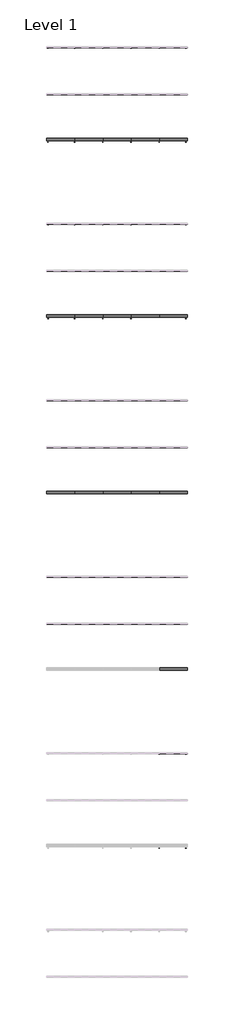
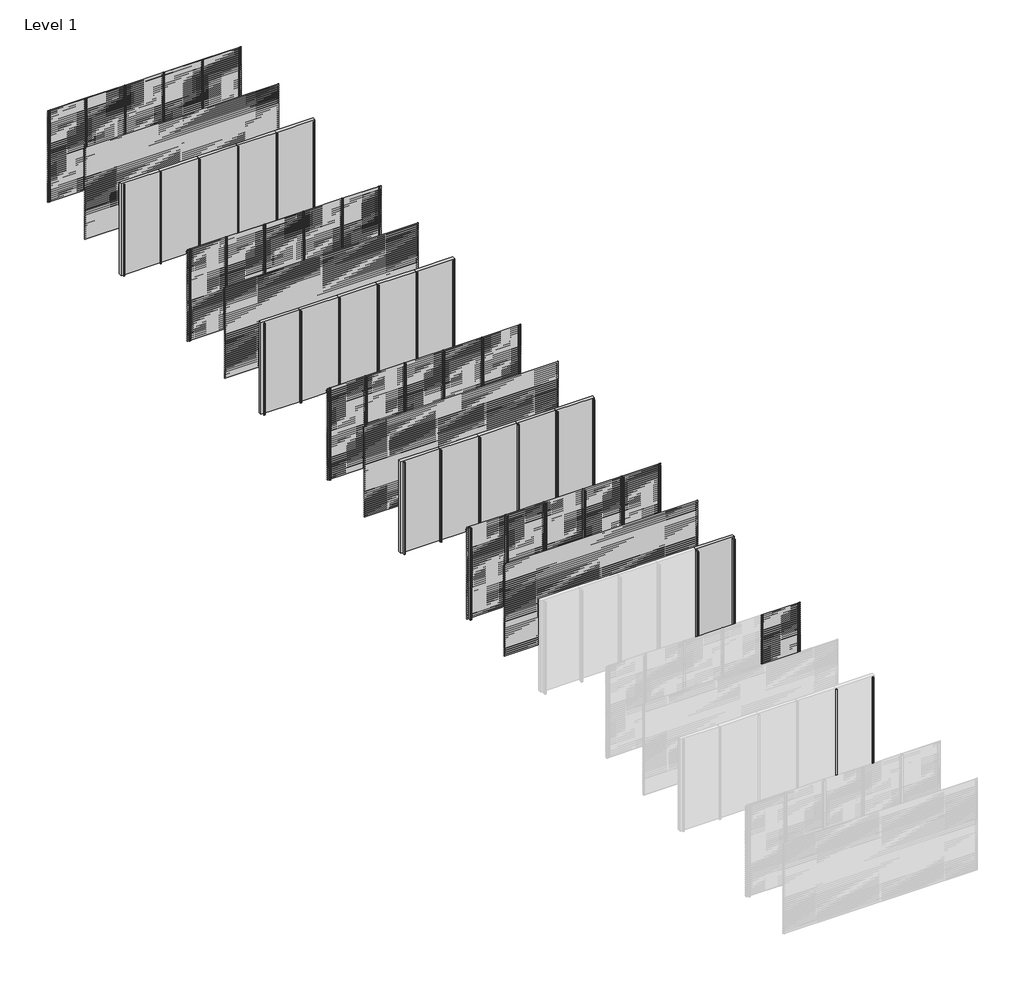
# One storey, part 13 of 540: 48 members, 41 plates.
"""IFC4 building model written with IfcOpenShell, lengths in millimetres."""

from ifc_helpers import new_model, si_unit, origin, place, context, project, spatial, faceted_brep, transform, mapped, element, save
from components import rectangular_mullion_42be434b, rectangular_mullion_e1f482b2, rectangular_mullion_21e3ddae, rectangular_mullion_fb497acc, rectangular_mullion_3facce28, rectangular_mullion_ffdfeaf4, rectangular_mullion_e0a14876, rectangular_mullion_146f339b, rectangular_mullion_aa1047c5, rectangular_mullion_c2c7736a, rectangular_mullion_35b0a916, rectangular_mullion_bd250e2e, rectangular_mullion_7b49c8f1, rectangular_mullion_0fd695e7, empty_system_panel_empty_aabbdda4

model = new_model("IFC4")

# Units and contexts
model_context = context("Model", 3, world=origin())
ifc_project = project(units=[si_unit("LENGTHUNIT", "METRE", prefix="MILLI")], contexts=[model_context])

# Site, building, storey
site = spatial("IfcSite", under=ifc_project)
building = spatial("IfcBuilding", under=site)
storey = spatial("IfcBuildingStorey", under=building, Name="Level 1", Elevation=0.0)

# Members
placement = place(None, origin())
rectangular_mullion_shape = rectangular_mullion_42be434b(model_context)
element("IfcMember", 1, ObjectType="Rectangular Mullion : LD.0065_renson", at=placement, inside=storey, context=model_context, shape_type="MappedRepresentation", body=[
    mapped(rectangular_mullion_shape, transform((269866.6208097, 73983.0540136, 0.0), x_axis=(-1.0, 0.0, 0.0), y_axis=(0.0, 1.0, 0.0), z_axis=(0.0, 0.0, -1.0))),
])
element("IfcMember", 2, ObjectType="Rectangular Mullion : LD.0065_renson", at=placement, inside=storey, context=model_context, shape_type="MappedRepresentation", body=[
    mapped(rectangular_mullion_shape, transform((268666.6208099, 73983.0540136, 0.0), x_axis=(-1.0, 0.0, 0.0), y_axis=(0.0, 1.0, 0.0), z_axis=(0.0, 0.0, -1.0))),
])
element("IfcMember", 3, ObjectType="Rectangular Mullion : LD.0065_renson", at=placement, inside=storey, context=model_context, shape_type="MappedRepresentation", body=[
    mapped(rectangular_mullion_shape, transform((272266.6208095, 69983.0540136, 0.0), x_axis=(-1.0, 0.0, 0.0), y_axis=(0.0, 1.0, 0.0), z_axis=(0.0, 0.0, -1.0))),
])
element("IfcMember", 4, ObjectType="Rectangular Mullion : LD.0065_renson", at=placement, inside=storey, context=model_context, shape_type="MappedRepresentation", body=[
    mapped(rectangular_mullion_shape, transform((271066.6208096, 69983.0540136, 0.0), x_axis=(-1.0, 0.0, 0.0), y_axis=(0.0, 1.0, 0.0), z_axis=(0.0, 0.0, -1.0))),
])
element("IfcMember", 5, ObjectType="Rectangular Mullion : LD.0065_renson", at=placement, inside=storey, context=model_context, shape_type="MappedRepresentation", body=[
    mapped(rectangular_mullion_shape, transform((269866.6208097, 69983.0540136, 0.0), x_axis=(-1.0, 0.0, 0.0), y_axis=(0.0, 1.0, 0.0), z_axis=(0.0, 0.0, -1.0))),
])
element("IfcMember", 6, ObjectType="Rectangular Mullion : LD.0065_renson", at=placement, inside=storey, context=model_context, shape_type="MappedRepresentation", body=[
    mapped(rectangular_mullion_shape, transform((268666.6208099, 69983.0540136, 0.0), x_axis=(-1.0, 0.0, 0.0), y_axis=(0.0, 1.0, 0.0), z_axis=(0.0, 0.0, -1.0))),
])
element("IfcMember", 7, ObjectType="Rectangular Mullion : LD.0065_renson", at=placement, inside=storey, context=model_context, shape_type="MappedRepresentation", body=[
    mapped(rectangular_mullion_shape, transform((271066.6208096, 73983.0540136, 0.0), x_axis=(-1.0, 0.0, 0.0), y_axis=(0.0, 1.0, 0.0), z_axis=(0.0, 0.0, -1.0))),
])
element("IfcMember", 8, ObjectType="Rectangular Mullion : LD.0065_renson", at=placement, inside=storey, context=model_context, shape_type="MappedRepresentation", body=[
    mapped(rectangular_mullion_shape, transform((272266.6208095, 73983.0540136, 0.0), x_axis=(-1.0, 0.0, 0.0), y_axis=(0.0, 1.0, 0.0), z_axis=(0.0, 0.0, -1.0))),
])
rectangular_mullion_2_shape = rectangular_mullion_e1f482b2(model_context)
element("IfcMember", 9, ObjectType="Rectangular Mullion : LD.0195_renson", at=placement, inside=storey, context=model_context, shape_type="MappedRepresentation", body=[
    mapped(rectangular_mullion_2_shape, transform((269866.6208097, 66483.0540136, 0.0), x_axis=(-1.0, 0.0, 0.0), y_axis=(0.0, 1.0, 0.0), z_axis=(0.0, 0.0, -1.0))),
])
element("IfcMember", 10, ObjectType="Rectangular Mullion : LD.0195_renson", at=placement, inside=storey, context=model_context, shape_type="MappedRepresentation", body=[
    mapped(rectangular_mullion_2_shape, transform((268666.6208099, 66483.0540136, 0.0), x_axis=(-1.0, 0.0, 0.0), y_axis=(0.0, 1.0, 0.0), z_axis=(0.0, 0.0, -1.0))),
])
element("IfcMember", 11, ObjectType="Rectangular Mullion : LD.0195_renson", at=placement, inside=storey, context=model_context, shape_type="MappedRepresentation", body=[
    mapped(rectangular_mullion_2_shape, transform((272266.6208095, 62483.0540136, 0.0), x_axis=(-1.0, 0.0, 0.0), y_axis=(0.0, 1.0, 0.0), z_axis=(0.0, 0.0, -1.0))),
])
element("IfcMember", 12, ObjectType="Rectangular Mullion : LD.0195_renson", at=placement, inside=storey, context=model_context, shape_type="MappedRepresentation", body=[
    mapped(rectangular_mullion_2_shape, transform((271066.6208096, 62483.0540136, 0.0), x_axis=(-1.0, 0.0, 0.0), y_axis=(0.0, 1.0, 0.0), z_axis=(0.0, 0.0, -1.0))),
])
element("IfcMember", 13, ObjectType="Rectangular Mullion : LD.0195_renson", at=placement, inside=storey, context=model_context, shape_type="MappedRepresentation", body=[
    mapped(rectangular_mullion_2_shape, transform((269866.6208097, 62483.0540136, 0.0), x_axis=(-1.0, 0.0, 0.0), y_axis=(0.0, 1.0, 0.0), z_axis=(0.0, 0.0, -1.0))),
])
element("IfcMember", 14, ObjectType="Rectangular Mullion : LD.0195_renson", at=placement, inside=storey, context=model_context, shape_type="MappedRepresentation", body=[
    mapped(rectangular_mullion_2_shape, transform((268666.6208099, 62483.0540136, 0.0), x_axis=(-1.0, 0.0, 0.0), y_axis=(0.0, 1.0, 0.0), z_axis=(0.0, 0.0, -1.0))),
])
element("IfcMember", 15, ObjectType="Rectangular Mullion : LD.0195_renson", at=placement, inside=storey, context=model_context, shape_type="MappedRepresentation", body=[
    mapped(rectangular_mullion_2_shape, transform((271066.6208096, 66483.0540136, 0.0), x_axis=(-1.0, 0.0, 0.0), y_axis=(0.0, 1.0, 0.0), z_axis=(0.0, 0.0, -1.0))),
])
element("IfcMember", 16, ObjectType="Rectangular Mullion : LD.0195_renson", at=placement, inside=storey, context=model_context, shape_type="MappedRepresentation", body=[
    mapped(rectangular_mullion_2_shape, transform((272266.6208095, 66483.0540136, 0.0), x_axis=(-1.0, 0.0, 0.0), y_axis=(0.0, 1.0, 0.0), z_axis=(0.0, 0.0, -1.0))),
])
rectangular_mullion_3_shape = rectangular_mullion_21e3ddae(model_context)
element("IfcMember", 17, ObjectType="Rectangular Mullion : LD.0460_renson", at=placement, inside=storey, context=model_context, shape_type="MappedRepresentation", body=[
    mapped(rectangular_mullion_3_shape, transform((269866.6208097, 58983.0540136, 0.0), x_axis=(-1.0, 0.0, 0.0), y_axis=(0.0, 1.0, 0.0), z_axis=(0.0, 0.0, -1.0))),
])
element("IfcMember", 18, ObjectType="Rectangular Mullion : LD.0460_renson", at=placement, inside=storey, context=model_context, shape_type="MappedRepresentation", body=[
    mapped(rectangular_mullion_3_shape, transform((268666.6208099, 58983.0540136, 0.0), x_axis=(-1.0, 0.0, 0.0), y_axis=(0.0, 1.0, 0.0), z_axis=(0.0, 0.0, -1.0))),
])
element("IfcMember", 19, ObjectType="Rectangular Mullion : LD.0460_renson", at=placement, inside=storey, context=model_context, shape_type="MappedRepresentation", body=[
    mapped(rectangular_mullion_3_shape, transform((272266.6208095, 54983.0540136, 0.0), x_axis=(-1.0, 0.0, 0.0), y_axis=(0.0, 1.0, 0.0), z_axis=(0.0, 0.0, -1.0))),
])
element("IfcMember", 20, ObjectType="Rectangular Mullion : LD.0460_renson", at=placement, inside=storey, context=model_context, shape_type="MappedRepresentation", body=[
    mapped(rectangular_mullion_3_shape, transform((271066.6208096, 54983.0540136, 0.0), x_axis=(-1.0, 0.0, 0.0), y_axis=(0.0, 1.0, 0.0), z_axis=(0.0, 0.0, -1.0))),
])
element("IfcMember", 21, ObjectType="Rectangular Mullion : LD.0460_renson", at=placement, inside=storey, context=model_context, shape_type="MappedRepresentation", body=[
    mapped(rectangular_mullion_3_shape, transform((269866.6208097, 54983.0540136, 0.0), x_axis=(-1.0, 0.0, 0.0), y_axis=(0.0, 1.0, 0.0), z_axis=(0.0, 0.0, -1.0))),
])
element("IfcMember", 22, ObjectType="Rectangular Mullion : LD.0460_renson", at=placement, inside=storey, context=model_context, shape_type="MappedRepresentation", body=[
    mapped(rectangular_mullion_3_shape, transform((268666.6208099, 54983.0540136, 0.0), x_axis=(-1.0, 0.0, 0.0), y_axis=(0.0, 1.0, 0.0), z_axis=(0.0, 0.0, -1.0))),
])
element("IfcMember", 23, ObjectType="Rectangular Mullion : LD.0460_renson", at=placement, inside=storey, context=model_context, shape_type="MappedRepresentation", body=[
    mapped(rectangular_mullion_3_shape, transform((271066.6208096, 58983.0540136, 0.0), x_axis=(-1.0, 0.0, 0.0), y_axis=(0.0, 1.0, 0.0), z_axis=(0.0, 0.0, -1.0))),
])
element("IfcMember", 24, ObjectType="Rectangular Mullion : LD.0460_renson", at=placement, inside=storey, context=model_context, shape_type="MappedRepresentation", body=[
    mapped(rectangular_mullion_3_shape, transform((272266.6208095, 58983.0540136, 0.0), x_axis=(-1.0, 0.0, 0.0), y_axis=(0.0, 1.0, 0.0), z_axis=(0.0, 0.0, -1.0))),
])
rectangular_mullion_4_shape = rectangular_mullion_fb497acc(model_context)
element("IfcMember", 25, ObjectType="Rectangular Mullion : LD.0995_renson", at=placement, inside=storey, context=model_context, shape_type="MappedRepresentation", body=[
    mapped(rectangular_mullion_4_shape, transform((269866.6208097, 51483.0540136, 0.0), x_axis=(-1.0, 0.0, 0.0), y_axis=(0.0, 1.0, 0.0), z_axis=(0.0, 0.0, -1.0))),
])
element("IfcMember", 26, ObjectType="Rectangular Mullion : LD.0995_renson", at=placement, inside=storey, context=model_context, shape_type="MappedRepresentation", body=[
    mapped(rectangular_mullion_4_shape, transform((268666.6208099, 51483.0540136, 0.0), x_axis=(-1.0, 0.0, 0.0), y_axis=(0.0, 1.0, 0.0), z_axis=(0.0, 0.0, -1.0))),
])
element("IfcMember", 27, ObjectType="Rectangular Mullion : LD.0995_renson", at=placement, inside=storey, context=model_context, shape_type="MappedRepresentation", body=[
    mapped(rectangular_mullion_4_shape, transform((272266.6208095, 47483.0540136, 0.0), x_axis=(-1.0, 0.0, 0.0), y_axis=(0.0, 1.0, 0.0), z_axis=(0.0, 0.0, -1.0))),
])
element("IfcMember", 28, ObjectType="Rectangular Mullion : LD.0995_renson", at=placement, inside=storey, context=model_context, shape_type="MappedRepresentation", body=[
    mapped(rectangular_mullion_4_shape, transform((271066.6208096, 51483.0540136, 0.0), x_axis=(-1.0, 0.0, 0.0), y_axis=(0.0, 1.0, 0.0), z_axis=(0.0, 0.0, -1.0))),
])
element("IfcMember", 29, ObjectType="Rectangular Mullion : LD.0995_renson", at=placement, inside=storey, context=model_context, shape_type="MappedRepresentation", body=[
    mapped(rectangular_mullion_4_shape, transform((272266.6208095, 51483.0540136, 0.0), x_axis=(-1.0, 0.0, 0.0), y_axis=(0.0, 1.0, 0.0), z_axis=(0.0, 0.0, -1.0))),
])
rectangular_mullion_5_shape = rectangular_mullion_3facce28(model_context)
element("IfcMember", 30, ObjectType="Rectangular Mullion : SD.014_renson", at=placement, inside=storey, context=model_context, shape_type="MappedRepresentation", body=[
    mapped(rectangular_mullion_5_shape, transform((272266.6208095, 39983.0540136, 0.0), x_axis=(-1.0, 0.0, 0.0), y_axis=(0.0, 1.0, 0.0), z_axis=(0.0, 0.0, -1.0))),
])
element("IfcMember", 31, ObjectType="Rectangular Mullion : SD.014_renson", at=placement, inside=storey, context=model_context, shape_type="MappedRepresentation", body=[
    mapped(rectangular_mullion_5_shape, transform((272266.6208095, 43983.0540136, 0.0), x_axis=(-1.0, 0.0, 0.0), y_axis=(0.0, 1.0, 0.0), z_axis=(0.0, 0.0, -1.0))),
])
rectangular_mullion_6_shape = rectangular_mullion_ffdfeaf4(model_context)
element("IfcMember", 32, ObjectType="Rectangular Mullion : LD.0065 - left_renson", at=placement, inside=storey, context=model_context, shape_type="MappedRepresentation", body=[
    mapped(rectangular_mullion_6_shape, transform((267466.6208097, 73983.0540136, 0.0), x_axis=(-1.0, 0.0, 0.0), y_axis=(0.0, 1.0, 0.0), z_axis=(0.0, 0.0, -1.0))),
])
element("IfcMember", 33, ObjectType="Rectangular Mullion : LD.0065 - left_renson", at=placement, inside=storey, context=model_context, shape_type="MappedRepresentation", body=[
    mapped(rectangular_mullion_6_shape, transform((267466.6208097, 69983.0540136, 0.0), x_axis=(-1.0, 0.0, 0.0), y_axis=(0.0, 1.0, 0.0), z_axis=(0.0, 0.0, -1.0))),
])
rectangular_mullion_7_shape = rectangular_mullion_e0a14876(model_context)
element("IfcMember", 34, ObjectType="Rectangular Mullion : LD.0065 - right_renson", at=placement, inside=storey, context=model_context, shape_type="MappedRepresentation", body=[
    mapped(rectangular_mullion_7_shape, transform((273466.6208097, 73983.0540136, 3000.0), x_axis=(1.0, 0.0, 0.0), y_axis=(0.0, 1.0, 0.0), z_axis=(0.0, 0.0, 1.0))),
])
element("IfcMember", 35, ObjectType="Rectangular Mullion : LD.0065 - right_renson", at=placement, inside=storey, context=model_context, shape_type="MappedRepresentation", body=[
    mapped(rectangular_mullion_7_shape, transform((273466.6208097, 69983.0540136, 3000.0), x_axis=(1.0, 0.0, 0.0), y_axis=(0.0, 1.0, 0.0), z_axis=(0.0, 0.0, 1.0))),
])
rectangular_mullion_8_shape = rectangular_mullion_146f339b(model_context)
element("IfcMember", 36, ObjectType="Rectangular Mullion : LD.0195 - left_renson", at=placement, inside=storey, context=model_context, shape_type="MappedRepresentation", body=[
    mapped(rectangular_mullion_8_shape, transform((267466.6208097, 66483.0540136, 0.0), x_axis=(-1.0, 0.0, 0.0), y_axis=(0.0, 1.0, 0.0), z_axis=(0.0, 0.0, -1.0))),
])
element("IfcMember", 37, ObjectType="Rectangular Mullion : LD.0195 - left_renson", at=placement, inside=storey, context=model_context, shape_type="MappedRepresentation", body=[
    mapped(rectangular_mullion_8_shape, transform((267466.6208097, 62483.0540136, 0.0), x_axis=(-1.0, 0.0, 0.0), y_axis=(0.0, 1.0, 0.0), z_axis=(0.0, 0.0, -1.0))),
])
rectangular_mullion_9_shape = rectangular_mullion_aa1047c5(model_context)
element("IfcMember", 38, ObjectType="Rectangular Mullion : LD.0195 - right_renson", at=placement, inside=storey, context=model_context, shape_type="MappedRepresentation", body=[
    mapped(rectangular_mullion_9_shape, transform((273466.6208097, 66483.0540136, 3000.0), x_axis=(1.0, 0.0, 0.0), y_axis=(0.0, 1.0, 0.0), z_axis=(0.0, 0.0, 1.0))),
])
element("IfcMember", 39, ObjectType="Rectangular Mullion : LD.0195 - right_renson", at=placement, inside=storey, context=model_context, shape_type="MappedRepresentation", body=[
    mapped(rectangular_mullion_9_shape, transform((273466.6208097, 62483.0540136, 3000.0), x_axis=(1.0, 0.0, 0.0), y_axis=(0.0, 1.0, 0.0), z_axis=(0.0, 0.0, 1.0))),
])
rectangular_mullion_10_shape = rectangular_mullion_c2c7736a(model_context)
element("IfcMember", 40, ObjectType="Rectangular Mullion : LD.0460 - left_renson", at=placement, inside=storey, context=model_context, shape_type="MappedRepresentation", body=[
    mapped(rectangular_mullion_10_shape, transform((267466.6208097, 58983.0540136, 0.0), x_axis=(-1.0, 0.0, 0.0), y_axis=(0.0, 1.0, 0.0), z_axis=(0.0, 0.0, -1.0))),
])
element("IfcMember", 41, ObjectType="Rectangular Mullion : LD.0460 - left_renson", at=placement, inside=storey, context=model_context, shape_type="MappedRepresentation", body=[
    mapped(rectangular_mullion_10_shape, transform((267466.6208097, 54983.0540136, 0.0), x_axis=(-1.0, 0.0, 0.0), y_axis=(0.0, 1.0, 0.0), z_axis=(0.0, 0.0, -1.0))),
])
rectangular_mullion_11_shape = rectangular_mullion_35b0a916(model_context)
element("IfcMember", 42, ObjectType="Rectangular Mullion : LD.0460 - right_renson", at=placement, inside=storey, context=model_context, shape_type="MappedRepresentation", body=[
    mapped(rectangular_mullion_11_shape, transform((273466.6208097, 58983.0540136, 3000.0), x_axis=(1.0, 0.0, 0.0), y_axis=(0.0, 1.0, 0.0), z_axis=(0.0, 0.0, 1.0))),
])
element("IfcMember", 43, ObjectType="Rectangular Mullion : LD.0460 - right_renson", at=placement, inside=storey, context=model_context, shape_type="MappedRepresentation", body=[
    mapped(rectangular_mullion_11_shape, transform((273466.6208097, 54983.0540136, 3000.0), x_axis=(1.0, 0.0, 0.0), y_axis=(0.0, 1.0, 0.0), z_axis=(0.0, 0.0, 1.0))),
])
rectangular_mullion_12_shape = rectangular_mullion_bd250e2e(model_context)
element("IfcMember", 44, ObjectType="Rectangular Mullion : LD.0995 - left_renson", at=placement, inside=storey, context=model_context, shape_type="MappedRepresentation", body=[
    mapped(rectangular_mullion_12_shape, transform((267466.6208097, 51483.0540136, 0.0), x_axis=(-1.0, 0.0, 0.0), y_axis=(0.0, 1.0, 0.0), z_axis=(0.0, 0.0, -1.0))),
])
rectangular_mullion_13_shape = rectangular_mullion_7b49c8f1(model_context)
element("IfcMember", 45, ObjectType="Rectangular Mullion : LD.0995 - right_renson", at=placement, inside=storey, context=model_context, shape_type="MappedRepresentation", body=[
    mapped(rectangular_mullion_13_shape, transform((273466.6208097, 51483.0540136, 3000.0), x_axis=(1.0, 0.0, 0.0), y_axis=(0.0, 1.0, 0.0), z_axis=(0.0, 0.0, 1.0))),
])
element("IfcMember", 46, ObjectType="Rectangular Mullion : LD.0995 - right_renson", at=placement, inside=storey, context=model_context, shape_type="MappedRepresentation", body=[
    mapped(rectangular_mullion_13_shape, transform((273466.6208097, 47483.0540136, 3000.0), x_axis=(1.0, 0.0, 0.0), y_axis=(0.0, 1.0, 0.0), z_axis=(0.0, 0.0, 1.0))),
])
rectangular_mullion_14_shape = rectangular_mullion_0fd695e7(model_context)
element("IfcMember", 47, ObjectType="Rectangular Mullion : SD.014 - right_renson", at=placement, inside=storey, context=model_context, shape_type="MappedRepresentation", body=[
    mapped(rectangular_mullion_14_shape, transform((273466.6208097, 43983.0540136, 3000.0), x_axis=(1.0, 0.0, 0.0), y_axis=(0.0, 1.0, 0.0), z_axis=(0.0, 0.0, 1.0))),
])
element("IfcMember", 48, ObjectType="Rectangular Mullion : SD.014 - right_renson", at=placement, inside=storey, context=model_context, shape_type="MappedRepresentation", body=[
    mapped(rectangular_mullion_14_shape, transform((273466.6208097, 39983.0540136, 3000.0), x_axis=(1.0, 0.0, 0.0), y_axis=(0.0, 1.0, 0.0), z_axis=(0.0, 0.0, 1.0))),
])

# Plates
element("IfcPlate", 49, at=placement, inside=storey, context=model_context, shape_type="Brep", body=[
    faceted_brep([(268666.6208099, 73984.0540136, 0.0), (267466.6208097, 73984.0540136, 0.0), (267466.6208097, 73984.0540136, 3000.0), (268666.6208099, 73984.0540136, 3000.0), (268666.6208099, 73982.0540136, 0.0), (268666.6208099, 73982.0540136, 3000.0), (267466.6208097, 73982.0540136, 3000.0), (267466.6208097, 73982.0540136, 0.0)], [[[0, 1, 2, 3]], [[4, 5, 6, 7]], [[1, 0, 4, 7]], [[2, 1, 7, 6]], [[3, 2, 6, 5]], [[0, 3, 5, 4]]]),
])
element("IfcPlate", 50, at=placement, inside=storey, context=model_context, shape_type="Brep", body=[
    faceted_brep([(269866.6208097, 73984.0540136, 0.0), (268666.6208099, 73984.0540136, 0.0), (268666.6208099, 73984.0540136, 3000.0), (269866.6208097, 73984.0540136, 3000.0), (269866.6208097, 73982.0540136, 0.0), (269866.6208097, 73982.0540136, 3000.0), (268666.6208099, 73982.0540136, 3000.0), (268666.6208099, 73982.0540136, 0.0)], [[[0, 1, 2, 3]], [[4, 5, 6, 7]], [[1, 0, 4, 7]], [[2, 1, 7, 6]], [[3, 2, 6, 5]], [[0, 3, 5, 4]]]),
])
element("IfcPlate", 51, at=placement, inside=storey, context=model_context, shape_type="Brep", body=[
    faceted_brep([(273466.6208097, 73984.0540136, 0.0), (272266.6208095, 73984.0540136, 0.0), (272266.6208095, 73984.0540136, 3000.0), (273466.6208097, 73984.0540136, 3000.0), (273466.6208097, 73982.0540136, 0.0), (273466.6208097, 73982.0540136, 3000.0), (272266.6208095, 73982.0540136, 3000.0), (272266.6208095, 73982.0540136, 0.0)], [[[0, 1, 2, 3]], [[4, 5, 6, 7]], [[1, 0, 4, 7]], [[2, 1, 7, 6]], [[3, 2, 6, 5]], [[0, 3, 5, 4]]]),
])
element("IfcPlate", 52, at=placement, inside=storey, context=model_context, shape_type="Brep", body=[
    faceted_brep([(273466.6208097, 71984.0540136, 0.0), (267466.6208097, 71984.0540136, 0.0), (267466.6208097, 71984.0540136, 3000.0), (273466.6208097, 71984.0540136, 3000.0), (273466.6208097, 71982.0540136, 0.0), (273466.6208097, 71982.0540136, 3000.0), (267466.6208097, 71982.0540136, 3000.0), (267466.6208097, 71982.0540136, 0.0)], [[[0, 1, 2, 3]], [[4, 5, 6, 7]], [[1, 0, 4, 7]], [[2, 1, 7, 6]], [[3, 2, 6, 5]], [[0, 3, 5, 4]]]),
])
element("IfcPlate", 53, at=placement, inside=storey, context=model_context, shape_type="Brep", body=[
    faceted_brep([(268666.6208099, 66484.0540136, 0.0), (267466.6208097, 66484.0540136, 0.0), (267466.6208097, 66484.0540136, 3000.0), (268666.6208099, 66484.0540136, 3000.0), (268666.6208099, 66482.0540136, 0.0), (268666.6208099, 66482.0540136, 3000.0), (267466.6208097, 66482.0540136, 3000.0), (267466.6208097, 66482.0540136, 0.0)], [[[0, 1, 2, 3]], [[4, 5, 6, 7]], [[1, 0, 4, 7]], [[2, 1, 7, 6]], [[3, 2, 6, 5]], [[0, 3, 5, 4]]]),
])
element("IfcPlate", 54, at=placement, inside=storey, context=model_context, shape_type="Brep", body=[
    faceted_brep([(269866.6208097, 66484.0540136, 0.0), (268666.6208099, 66484.0540136, 0.0), (268666.6208099, 66484.0540136, 3000.0), (269866.6208097, 66484.0540136, 3000.0), (269866.6208097, 66482.0540136, 0.0), (269866.6208097, 66482.0540136, 3000.0), (268666.6208099, 66482.0540136, 3000.0), (268666.6208099, 66482.0540136, 0.0)], [[[0, 1, 2, 3]], [[4, 5, 6, 7]], [[1, 0, 4, 7]], [[2, 1, 7, 6]], [[3, 2, 6, 5]], [[0, 3, 5, 4]]]),
])
element("IfcPlate", 55, at=placement, inside=storey, context=model_context, shape_type="Brep", body=[
    faceted_brep([(273466.6208097, 66484.0540136, 0.0), (272266.6208095, 66484.0540136, 0.0), (272266.6208095, 66484.0540136, 3000.0), (273466.6208097, 66484.0540136, 3000.0), (273466.6208097, 66482.0540136, 0.0), (273466.6208097, 66482.0540136, 3000.0), (272266.6208095, 66482.0540136, 3000.0), (272266.6208095, 66482.0540136, 0.0)], [[[0, 1, 2, 3]], [[4, 5, 6, 7]], [[1, 0, 4, 7]], [[2, 1, 7, 6]], [[3, 2, 6, 5]], [[0, 3, 5, 4]]]),
])
element("IfcPlate", 56, at=placement, inside=storey, context=model_context, shape_type="Brep", body=[
    faceted_brep([(273466.6208097, 64484.0540136, 0.0), (267466.6208097, 64484.0540136, 0.0), (267466.6208097, 64484.0540136, 3000.0), (273466.6208097, 64484.0540136, 3000.0), (273466.6208097, 64482.0540136, 0.0), (273466.6208097, 64482.0540136, 3000.0), (267466.6208097, 64482.0540136, 3000.0), (267466.6208097, 64482.0540136, 0.0)], [[[0, 1, 2, 3]], [[4, 5, 6, 7]], [[1, 0, 4, 7]], [[2, 1, 7, 6]], [[3, 2, 6, 5]], [[0, 3, 5, 4]]]),
])
element("IfcPlate", 57, at=placement, inside=storey, context=model_context, shape_type="Brep", body=[
    faceted_brep([(268666.6208099, 58984.0540136, 0.0), (267466.6208097, 58984.0540136, 0.0), (267466.6208097, 58984.0540136, 3000.0), (268666.6208099, 58984.0540136, 3000.0), (268666.6208099, 58982.0540136, 0.0), (268666.6208099, 58982.0540136, 3000.0), (267466.6208097, 58982.0540136, 3000.0), (267466.6208097, 58982.0540136, 0.0)], [[[0, 1, 2, 3]], [[4, 5, 6, 7]], [[1, 0, 4, 7]], [[2, 1, 7, 6]], [[3, 2, 6, 5]], [[0, 3, 5, 4]]]),
])
element("IfcPlate", 58, at=placement, inside=storey, context=model_context, shape_type="Brep", body=[
    faceted_brep([(269866.6208097, 58984.0540136, 0.0), (268666.6208099, 58984.0540136, 0.0), (268666.6208099, 58984.0540136, 3000.0), (269866.6208097, 58984.0540136, 3000.0), (269866.6208097, 58982.0540136, 0.0), (269866.6208097, 58982.0540136, 3000.0), (268666.6208099, 58982.0540136, 3000.0), (268666.6208099, 58982.0540136, 0.0)], [[[0, 1, 2, 3]], [[4, 5, 6, 7]], [[1, 0, 4, 7]], [[2, 1, 7, 6]], [[3, 2, 6, 5]], [[0, 3, 5, 4]]]),
])
element("IfcPlate", 59, at=placement, inside=storey, context=model_context, shape_type="Brep", body=[
    faceted_brep([(273466.6208097, 58984.0540136, 0.0), (272266.6208095, 58984.0540136, 0.0), (272266.6208095, 58984.0540136, 3000.0), (273466.6208097, 58984.0540136, 3000.0), (273466.6208097, 58982.0540136, 0.0), (273466.6208097, 58982.0540136, 3000.0), (272266.6208095, 58982.0540136, 3000.0), (272266.6208095, 58982.0540136, 0.0)], [[[0, 1, 2, 3]], [[4, 5, 6, 7]], [[1, 0, 4, 7]], [[2, 1, 7, 6]], [[3, 2, 6, 5]], [[0, 3, 5, 4]]]),
])
element("IfcPlate", 60, at=placement, inside=storey, context=model_context, shape_type="Brep", body=[
    faceted_brep([(273466.6208097, 56984.0540136, 0.0), (267466.6208097, 56984.0540136, 0.0), (267466.6208097, 56984.0540136, 3000.0), (273466.6208097, 56984.0540136, 3000.0), (273466.6208097, 56982.0540136, 0.0), (273466.6208097, 56982.0540136, 3000.0), (267466.6208097, 56982.0540136, 3000.0), (267466.6208097, 56982.0540136, 0.0)], [[[0, 1, 2, 3]], [[4, 5, 6, 7]], [[1, 0, 4, 7]], [[2, 1, 7, 6]], [[3, 2, 6, 5]], [[0, 3, 5, 4]]]),
])
element("IfcPlate", 61, at=placement, inside=storey, context=model_context, shape_type="Brep", body=[
    faceted_brep([(268666.6208099, 51484.0540136, 0.0), (267466.6208097, 51484.0540136, 0.0), (267466.6208097, 51484.0540136, 3000.0), (268666.6208099, 51484.0540136, 3000.0), (268666.6208099, 51482.0540136, 0.0), (268666.6208099, 51482.0540136, 3000.0), (267466.6208097, 51482.0540136, 3000.0), (267466.6208097, 51482.0540136, 0.0)], [[[0, 1, 2, 3]], [[4, 5, 6, 7]], [[1, 0, 4, 7]], [[2, 1, 7, 6]], [[3, 2, 6, 5]], [[0, 3, 5, 4]]]),
])
element("IfcPlate", 62, at=placement, inside=storey, context=model_context, shape_type="Brep", body=[
    faceted_brep([(269866.6208097, 51484.0540136, 0.0), (268666.6208099, 51484.0540136, 0.0), (268666.6208099, 51484.0540136, 3000.0), (269866.6208097, 51484.0540136, 3000.0), (269866.6208097, 51482.0540136, 0.0), (269866.6208097, 51482.0540136, 3000.0), (268666.6208099, 51482.0540136, 3000.0), (268666.6208099, 51482.0540136, 0.0)], [[[0, 1, 2, 3]], [[4, 5, 6, 7]], [[1, 0, 4, 7]], [[2, 1, 7, 6]], [[3, 2, 6, 5]], [[0, 3, 5, 4]]]),
])
element("IfcPlate", 63, at=placement, inside=storey, context=model_context, shape_type="Brep", body=[
    faceted_brep([(273466.6208097, 51484.0540136, 0.0), (272266.6208095, 51484.0540136, 0.0), (272266.6208095, 51484.0540136, 3000.0), (273466.6208097, 51484.0540136, 3000.0), (273466.6208097, 51482.0540136, 0.0), (273466.6208097, 51482.0540136, 3000.0), (272266.6208095, 51482.0540136, 3000.0), (272266.6208095, 51482.0540136, 0.0)], [[[0, 1, 2, 3]], [[4, 5, 6, 7]], [[1, 0, 4, 7]], [[2, 1, 7, 6]], [[3, 2, 6, 5]], [[0, 3, 5, 4]]]),
])
element("IfcPlate", 64, at=placement, inside=storey, context=model_context, shape_type="Brep", body=[
    faceted_brep([(273466.6208097, 49484.0540136, 0.0), (267466.6208097, 49484.0540136, 0.0), (267466.6208097, 49484.0540136, 3000.0), (273466.6208097, 49484.0540136, 3000.0), (273466.6208097, 49482.0540136, 0.0), (273466.6208097, 49482.0540136, 3000.0), (267466.6208097, 49482.0540136, 3000.0), (267466.6208097, 49482.0540136, 0.0)], [[[0, 1, 2, 3]], [[4, 5, 6, 7]], [[1, 0, 4, 7]], [[2, 1, 7, 6]], [[3, 2, 6, 5]], [[0, 3, 5, 4]]]),
])
element("IfcPlate", 65, at=placement, inside=storey, context=model_context, shape_type="Brep", body=[
    faceted_brep([(273466.6208097, 43984.0540136, 0.0), (272266.6208095, 43984.0540136, 0.0), (272266.6208095, 43984.0540136, 3000.0), (273466.6208097, 43984.0540136, 3000.0), (273466.6208097, 43982.0540136, 0.0), (273466.6208097, 43982.0540136, 3000.0), (272266.6208095, 43982.0540136, 3000.0), (272266.6208095, 43982.0540136, 0.0)], [[[0, 1, 2, 3]], [[4, 5, 6, 7]], [[1, 0, 4, 7]], [[2, 1, 7, 6]], [[3, 2, 6, 5]], [[0, 3, 5, 4]]]),
])
element("IfcPlate", 66, at=placement, inside=storey, context=model_context, shape_type="Brep", body=[
    faceted_brep([(271066.6208096, 73984.0540136, 0.0), (269866.6208097, 73984.0540136, 0.0), (269866.6208097, 73984.0540136, 3000.0), (271066.6208096, 73984.0540136, 3000.0), (271066.6208096, 73982.0540136, 0.0), (271066.6208096, 73982.0540136, 3000.0), (269866.6208097, 73982.0540136, 3000.0), (269866.6208097, 73982.0540136, 0.0)], [[[0, 1, 2, 3]], [[4, 5, 6, 7]], [[1, 0, 4, 7]], [[2, 1, 7, 6]], [[3, 2, 6, 5]], [[0, 3, 5, 4]]]),
])
element("IfcPlate", 67, at=placement, inside=storey, context=model_context, shape_type="Brep", body=[
    faceted_brep([(272266.6208095, 73984.0540136, 0.0), (271066.6208096, 73984.0540136, 0.0), (271066.6208096, 73984.0540136, 3000.0), (272266.6208095, 73984.0540136, 3000.0), (272266.6208095, 73982.0540136, 0.0), (272266.6208095, 73982.0540136, 3000.0), (271066.6208096, 73982.0540136, 3000.0), (271066.6208096, 73982.0540136, 0.0)], [[[0, 1, 2, 3]], [[4, 5, 6, 7]], [[1, 0, 4, 7]], [[2, 1, 7, 6]], [[3, 2, 6, 5]], [[0, 3, 5, 4]]]),
])
element("IfcPlate", 68, at=placement, inside=storey, context=model_context, shape_type="Brep", body=[
    faceted_brep([(271066.6208096, 66484.0540136, 0.0), (269866.6208097, 66484.0540136, 0.0), (269866.6208097, 66484.0540136, 3000.0), (271066.6208096, 66484.0540136, 3000.0), (271066.6208096, 66482.0540136, 0.0), (271066.6208096, 66482.0540136, 3000.0), (269866.6208097, 66482.0540136, 3000.0), (269866.6208097, 66482.0540136, 0.0)], [[[0, 1, 2, 3]], [[4, 5, 6, 7]], [[1, 0, 4, 7]], [[2, 1, 7, 6]], [[3, 2, 6, 5]], [[0, 3, 5, 4]]]),
])
element("IfcPlate", 69, at=placement, inside=storey, context=model_context, shape_type="Brep", body=[
    faceted_brep([(272266.6208095, 66484.0540136, 0.0), (271066.6208096, 66484.0540136, 0.0), (271066.6208096, 66484.0540136, 3000.0), (272266.6208095, 66484.0540136, 3000.0), (272266.6208095, 66482.0540136, 0.0), (272266.6208095, 66482.0540136, 3000.0), (271066.6208096, 66482.0540136, 3000.0), (271066.6208096, 66482.0540136, 0.0)], [[[0, 1, 2, 3]], [[4, 5, 6, 7]], [[1, 0, 4, 7]], [[2, 1, 7, 6]], [[3, 2, 6, 5]], [[0, 3, 5, 4]]]),
])
element("IfcPlate", 70, at=placement, inside=storey, context=model_context, shape_type="Brep", body=[
    faceted_brep([(271066.6208096, 58984.0540136, 0.0), (269866.6208097, 58984.0540136, 0.0), (269866.6208097, 58984.0540136, 3000.0), (271066.6208096, 58984.0540136, 3000.0), (271066.6208096, 58982.0540136, 0.0), (271066.6208096, 58982.0540136, 3000.0), (269866.6208097, 58982.0540136, 3000.0), (269866.6208097, 58982.0540136, 0.0)], [[[0, 1, 2, 3]], [[4, 5, 6, 7]], [[1, 0, 4, 7]], [[2, 1, 7, 6]], [[3, 2, 6, 5]], [[0, 3, 5, 4]]]),
])
element("IfcPlate", 71, at=placement, inside=storey, context=model_context, shape_type="Brep", body=[
    faceted_brep([(272266.6208095, 58984.0540136, 0.0), (271066.6208096, 58984.0540136, 0.0), (271066.6208096, 58984.0540136, 3000.0), (272266.6208095, 58984.0540136, 3000.0), (272266.6208095, 58982.0540136, 0.0), (272266.6208095, 58982.0540136, 3000.0), (271066.6208096, 58982.0540136, 3000.0), (271066.6208096, 58982.0540136, 0.0)], [[[0, 1, 2, 3]], [[4, 5, 6, 7]], [[1, 0, 4, 7]], [[2, 1, 7, 6]], [[3, 2, 6, 5]], [[0, 3, 5, 4]]]),
])
element("IfcPlate", 72, at=placement, inside=storey, context=model_context, shape_type="Brep", body=[
    faceted_brep([(271066.6208096, 51484.0540136, 0.0), (269866.6208097, 51484.0540136, 0.0), (269866.6208097, 51484.0540136, 3000.0), (271066.6208096, 51484.0540136, 3000.0), (271066.6208096, 51482.0540136, 0.0), (271066.6208096, 51482.0540136, 3000.0), (269866.6208097, 51482.0540136, 3000.0), (269866.6208097, 51482.0540136, 0.0)], [[[0, 1, 2, 3]], [[4, 5, 6, 7]], [[1, 0, 4, 7]], [[2, 1, 7, 6]], [[3, 2, 6, 5]], [[0, 3, 5, 4]]]),
])
element("IfcPlate", 73, at=placement, inside=storey, context=model_context, shape_type="Brep", body=[
    faceted_brep([(272266.6208095, 51484.0540136, 0.0), (271066.6208096, 51484.0540136, 0.0), (271066.6208096, 51484.0540136, 3000.0), (272266.6208095, 51484.0540136, 3000.0), (272266.6208095, 51482.0540136, 0.0), (272266.6208095, 51482.0540136, 3000.0), (271066.6208096, 51482.0540136, 3000.0), (271066.6208096, 51482.0540136, 0.0)], [[[0, 1, 2, 3]], [[4, 5, 6, 7]], [[1, 0, 4, 7]], [[2, 1, 7, 6]], [[3, 2, 6, 5]], [[0, 3, 5, 4]]]),
])
empty_system_panel_empty_shape = empty_system_panel_empty_aabbdda4(model_context)
element("IfcPlate", 74, ObjectType="Empty System Panel : Empty", at=placement, inside=storey, context=model_context, shape_type="MappedRepresentation", body=[
    mapped(empty_system_panel_empty_shape, transform((272866.6208096, 69983.0540136, 0.0), x_axis=(-1.0, 0.0, 0.0), y_axis=(0.0, -1.0, 0.0), z_axis=(0.0, 0.0, 1.0))),
])
element("IfcPlate", 75, ObjectType="Empty System Panel : Empty", at=placement, inside=storey, context=model_context, shape_type="MappedRepresentation", body=[
    mapped(empty_system_panel_empty_shape, transform((272866.6208096, 62483.0540136, 0.0), x_axis=(-1.0, 0.0, 0.0), y_axis=(0.0, -1.0, 0.0), z_axis=(0.0, 0.0, 1.0))),
])
element("IfcPlate", 76, ObjectType="Empty System Panel : Empty", at=placement, inside=storey, context=model_context, shape_type="MappedRepresentation", body=[
    mapped(empty_system_panel_empty_shape, transform((272866.6208096, 54983.0540136, 0.0), x_axis=(-1.0, 0.0, 0.0), y_axis=(0.0, -1.0, 0.0), z_axis=(0.0, 0.0, 1.0))),
])
element("IfcPlate", 77, ObjectType="Empty System Panel : Empty", at=placement, inside=storey, context=model_context, shape_type="MappedRepresentation", body=[
    mapped(empty_system_panel_empty_shape, transform((272866.6208096, 47483.0540136, 0.0), x_axis=(-1.0, 0.0, 0.0), y_axis=(0.0, -1.0, 0.0), z_axis=(0.0, 0.0, 1.0))),
])
element("IfcPlate", 78, ObjectType="Empty System Panel : Empty", at=placement, inside=storey, context=model_context, shape_type="MappedRepresentation", body=[
    mapped(empty_system_panel_empty_shape, transform((271666.6208096, 69983.0540136, 0.0), x_axis=(-1.0, 0.0, 0.0), y_axis=(0.0, -1.0, 0.0), z_axis=(0.0, 0.0, 1.0))),
])
element("IfcPlate", 79, ObjectType="Empty System Panel : Empty", at=placement, inside=storey, context=model_context, shape_type="MappedRepresentation", body=[
    mapped(empty_system_panel_empty_shape, transform((270466.6208097, 69983.0540136, 0.0), x_axis=(-1.0, 0.0, 0.0), y_axis=(0.0, -1.0, 0.0), z_axis=(0.0, 0.0, 1.0))),
])
element("IfcPlate", 80, ObjectType="Empty System Panel : Empty", at=placement, inside=storey, context=model_context, shape_type="MappedRepresentation", body=[
    mapped(empty_system_panel_empty_shape, transform((269266.6208098, 69983.0540136, 0.0), x_axis=(-1.0, 0.0, 0.0), y_axis=(0.0, -1.0, 0.0), z_axis=(0.0, 0.0, 1.0))),
])
element("IfcPlate", 81, ObjectType="Empty System Panel : Empty", at=placement, inside=storey, context=model_context, shape_type="MappedRepresentation", body=[
    mapped(empty_system_panel_empty_shape, transform((268066.6208098, 69983.0540136, 0.0), x_axis=(-1.0, 0.0, 0.0), y_axis=(0.0, -1.0, 0.0), z_axis=(0.0, 0.0, 1.0))),
])
element("IfcPlate", 82, ObjectType="Empty System Panel : Empty", at=placement, inside=storey, context=model_context, shape_type="MappedRepresentation", body=[
    mapped(empty_system_panel_empty_shape, transform((271666.6208096, 62483.0540136, 0.0), x_axis=(-1.0, 0.0, 0.0), y_axis=(0.0, -1.0, 0.0), z_axis=(0.0, 0.0, 1.0))),
])
element("IfcPlate", 83, ObjectType="Empty System Panel : Empty", at=placement, inside=storey, context=model_context, shape_type="MappedRepresentation", body=[
    mapped(empty_system_panel_empty_shape, transform((270466.6208097, 62483.0540136, 0.0), x_axis=(-1.0, 0.0, 0.0), y_axis=(0.0, -1.0, 0.0), z_axis=(0.0, 0.0, 1.0))),
])
element("IfcPlate", 84, ObjectType="Empty System Panel : Empty", at=placement, inside=storey, context=model_context, shape_type="MappedRepresentation", body=[
    mapped(empty_system_panel_empty_shape, transform((269266.6208098, 62483.0540136, 0.0), x_axis=(-1.0, 0.0, 0.0), y_axis=(0.0, -1.0, 0.0), z_axis=(0.0, 0.0, 1.0))),
])
element("IfcPlate", 85, ObjectType="Empty System Panel : Empty", at=placement, inside=storey, context=model_context, shape_type="MappedRepresentation", body=[
    mapped(empty_system_panel_empty_shape, transform((268066.6208098, 62483.0540136, 0.0), x_axis=(-1.0, 0.0, 0.0), y_axis=(0.0, -1.0, 0.0), z_axis=(0.0, 0.0, 1.0))),
])
element("IfcPlate", 86, ObjectType="Empty System Panel : Empty", at=placement, inside=storey, context=model_context, shape_type="MappedRepresentation", body=[
    mapped(empty_system_panel_empty_shape, transform((271666.6208096, 54983.0540136, 0.0), x_axis=(-1.0, 0.0, 0.0), y_axis=(0.0, -1.0, 0.0), z_axis=(0.0, 0.0, 1.0))),
])
element("IfcPlate", 87, ObjectType="Empty System Panel : Empty", at=placement, inside=storey, context=model_context, shape_type="MappedRepresentation", body=[
    mapped(empty_system_panel_empty_shape, transform((270466.6208097, 54983.0540136, 0.0), x_axis=(-1.0, 0.0, 0.0), y_axis=(0.0, -1.0, 0.0), z_axis=(0.0, 0.0, 1.0))),
])
element("IfcPlate", 88, ObjectType="Empty System Panel : Empty", at=placement, inside=storey, context=model_context, shape_type="MappedRepresentation", body=[
    mapped(empty_system_panel_empty_shape, transform((269266.6208098, 54983.0540136, 0.0), x_axis=(-1.0, 0.0, 0.0), y_axis=(0.0, -1.0, 0.0), z_axis=(0.0, 0.0, 1.0))),
])
element("IfcPlate", 89, ObjectType="Empty System Panel : Empty", at=placement, inside=storey, context=model_context, shape_type="MappedRepresentation", body=[
    mapped(empty_system_panel_empty_shape, transform((268066.6208098, 54983.0540136, 0.0), x_axis=(-1.0, 0.0, 0.0), y_axis=(0.0, -1.0, 0.0), z_axis=(0.0, 0.0, 1.0))),
])

save(model, "model.ifc")
